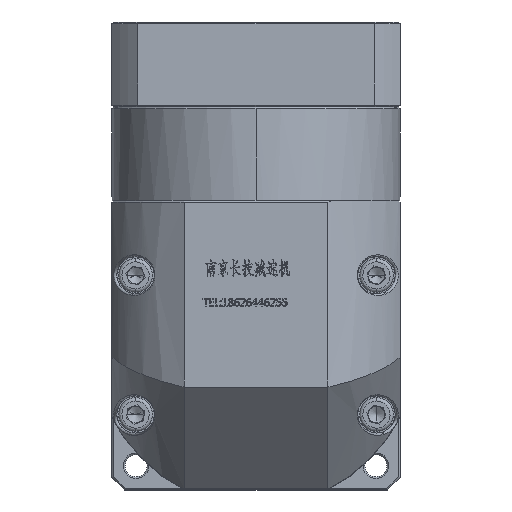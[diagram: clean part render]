
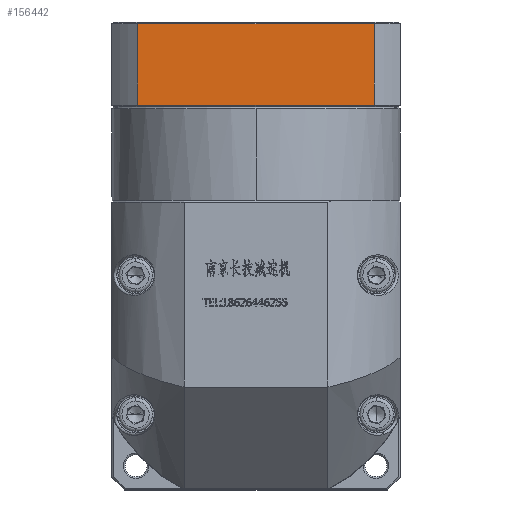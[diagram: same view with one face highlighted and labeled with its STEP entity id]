
A CAD part, top view. The second image highlights one B-rep face of the part: STEP entity #156442.
In plain terms, the highlighted planar face has unit normal (0, 0, 1).
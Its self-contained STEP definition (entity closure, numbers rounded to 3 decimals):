
#2771 = LINE ( 'NONE', #160787, #146723 ) ;
#6481 = VERTEX_POINT ( 'NONE', #71634 ) ;
#17605 = VECTOR ( 'NONE', #24011, 1000. ) ;
#21764 = DIRECTION ( 'NONE',  ( 0., -1., 0. ) ) ;
#23439 = FACE_OUTER_BOUND ( 'NONE', #36469, .T. ) ;
#23696 = EDGE_CURVE ( 'NONE', #162422, #143673, #124586, .T. ) ;
#23764 = ORIENTED_EDGE ( 'NONE', *, *, #23696, .T. ) ;
#24011 = DIRECTION ( 'NONE',  ( 1., 0., 0. ) ) ;
#34917 = EDGE_CURVE ( 'NONE', #6481, #143673, #2771, .T. ) ;
#36469 = EDGE_LOOP ( 'NONE', ( #62412, #47769, #23764, #69968 ) ) ;
#39952 = DIRECTION ( 'NONE',  ( 0., 0., -1. ) ) ;
#42610 = CARTESIAN_POINT ( 'NONE',  ( -7.741, 143.797, 97.815 ) ) ;
#43064 = CARTESIAN_POINT ( 'NONE',  ( 62.08, 167.797, 97.815 ) ) ;
#47769 = ORIENTED_EDGE ( 'NONE', *, *, #158916, .F. ) ;
#62412 = ORIENTED_EDGE ( 'NONE', *, *, #141757, .F. ) ;
#69968 = ORIENTED_EDGE ( 'NONE', *, *, #34917, .F. ) ;
#71634 = CARTESIAN_POINT ( 'NONE',  ( 62.08, 167.797, 97.815 ) ) ;
#78848 = VECTOR ( 'NONE', #167116, 1000. ) ;
#83244 = LINE ( 'NONE', #125021, #78848 ) ;
#84467 = DIRECTION ( 'NONE',  ( 1., 0., 0. ) ) ;
#102531 = CARTESIAN_POINT ( 'NONE',  ( -7.741, 167.797, 97.815 ) ) ;
#107479 = CARTESIAN_POINT ( 'NONE',  ( 62.08, 143.797, 97.815 ) ) ;
#108814 = CARTESIAN_POINT ( 'NONE',  ( 62.08, 143.797, 97.815 ) ) ;
#123403 = CARTESIAN_POINT ( 'NONE',  ( 62.08, 168.297, 97.815 ) ) ;
#124586 = LINE ( 'NONE', #107479, #17605 ) ;
#125021 = CARTESIAN_POINT ( 'NONE',  ( -7.741, 168.297, 97.815 ) ) ;
#125912 = VECTOR ( 'NONE', #84467, 1000. ) ;
#136882 = PLANE ( 'NONE',  #159193 ) ;
#137498 = DIRECTION ( 'NONE',  ( 0., -1., 0. ) ) ;
#141757 = EDGE_CURVE ( 'NONE', #158577, #6481, #167396, .T. ) ;
#143673 = VERTEX_POINT ( 'NONE', #108814 ) ;
#146723 = VECTOR ( 'NONE', #21764, 1000. ) ;
#156442 = ADVANCED_FACE ( 'NONE', ( #23439 ), #136882, .F. ) ;
#158577 = VERTEX_POINT ( 'NONE', #102531 ) ;
#158916 = EDGE_CURVE ( 'NONE', #162422, #158577, #83244, .T. ) ;
#159193 = AXIS2_PLACEMENT_3D ( 'NONE', #123403, #39952, #137498 ) ;
#160787 = CARTESIAN_POINT ( 'NONE',  ( 62.08, 168.297, 97.815 ) ) ;
#162422 = VERTEX_POINT ( 'NONE', #42610 ) ;
#167116 = DIRECTION ( 'NONE',  ( 0., 1., 0. ) ) ;
#167396 = LINE ( 'NONE', #43064, #125912 ) ;
